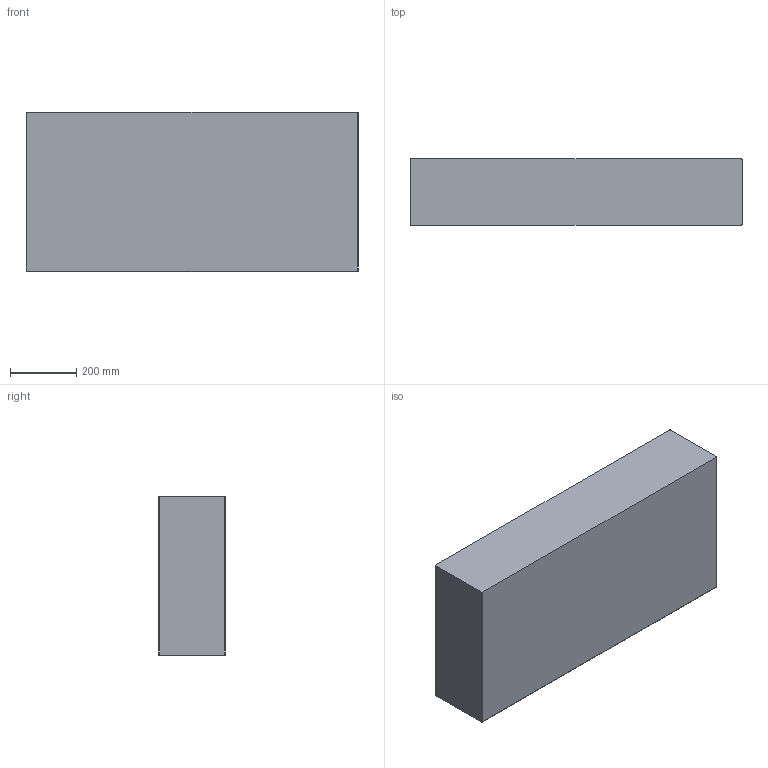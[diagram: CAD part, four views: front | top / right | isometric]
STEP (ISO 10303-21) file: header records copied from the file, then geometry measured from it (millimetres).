
FILE_DESCRIPTION(('CATIA V5 STEP Exchange'),'2;1');
FILE_NAME('C:\Users\Luca\Downloads\mobili next\7526\3D_7526.stp','2023-01-31T14:17:52+00:00',('none'),('none'),'CATIA Version 5 Release 19 SP 5 (IN-10)','CATIA V5 STEP AP214','none');
FILE_SCHEMA(('AUTOMOTIVE_DESIGN { 1 0 10303 214 1 1 1 1 }'));
Length unit declared in the file: millimetre
Products named in the file (1): ART. 7526
Bounding box: 1000 x 200 x 480 mm (x, y, z)
Volume: 23864854.9 mm3; surface area: 2560172.5 mm2
Topology: 1 solids, 1 shells, 73 faces, 164 edges, 86 vertices
Faces by surface type: cylinder 28, bspline 20, plane 15, sphere 8, torus 2
Entity records: 3211 total; most frequent: CARTESIAN_POINT 1817, ORIENTED_EDGE 312, DIRECTION 207, EDGE_CURVE 156, AXIS2_PLACEMENT_3D 98, VERTEX_POINT 86, EDGE_LOOP 74, ADVANCED_FACE 73
